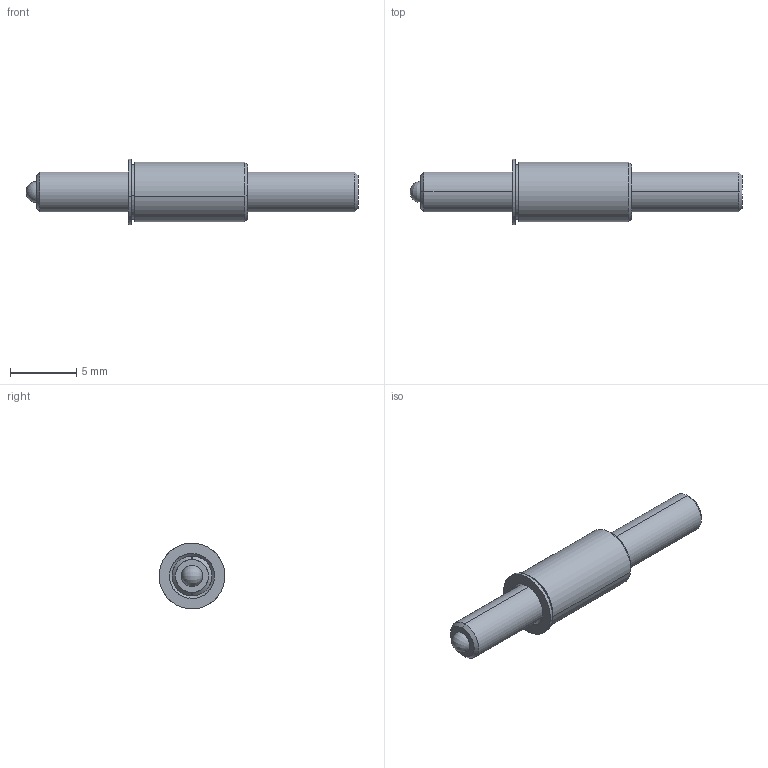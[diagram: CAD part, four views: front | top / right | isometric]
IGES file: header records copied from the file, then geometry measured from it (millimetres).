
Start section: SolidWorks IGES file using analytic representation for surfaces
Global section: file name: C:\Users\workpc\Desktop\KMA Solidworks\TSBM3-25-25_9.IGS; native system: SolidWorks 2013; preprocessor: SolidWorks 2013; author: workpc; date: 130314.170819; units: inch
Bounding box: 25 x 4.95 x 4.95 mm (x, y, z)
Surface area: 410.7 mm2 (no closed solid volume)
Topology: 0 solids, 0 shells, 32 faces, 446 edges, 442 vertices
Faces by surface type: revolution 20, bspline 12
